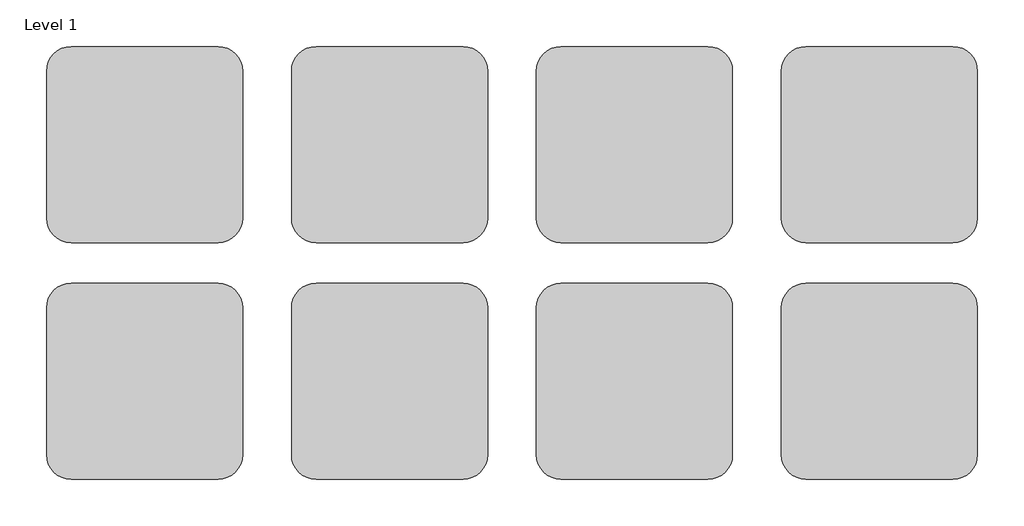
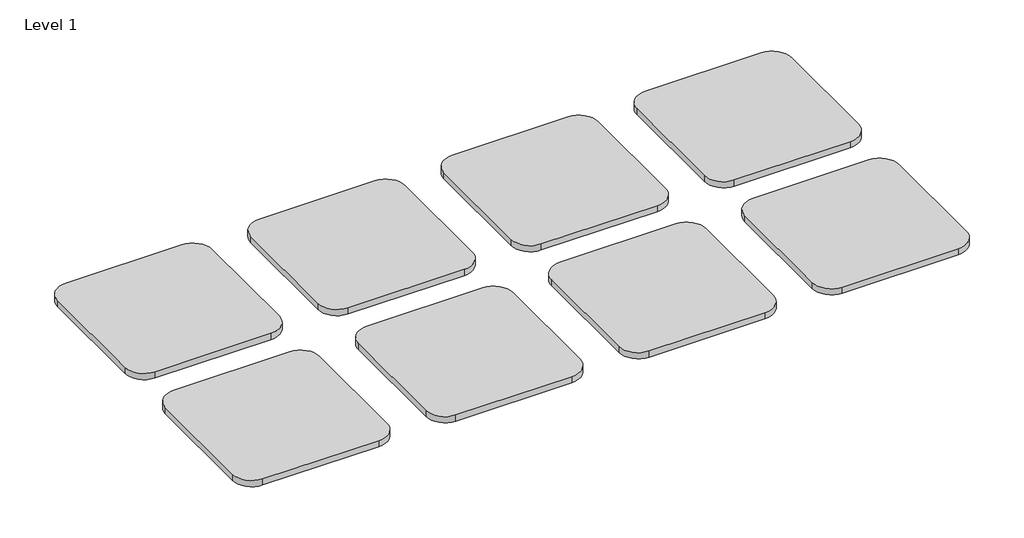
# One storey: 8 proxies.
"""IFC4 building model written with IfcOpenShell, lengths in millimetres."""

from ifc_helpers import new_model, si_unit, origin, place, context, project, spatial, transform, mapped, element, save
from components import materialsample_type_1_9638d12c

model = new_model("IFC4")

# Units and contexts
model_context = context("Model", 3, world=origin())
ifc_project = project(units=[si_unit("LENGTHUNIT", "METRE", prefix="MILLI")], contexts=[model_context])

# Site, building, storey
site = spatial("IfcSite", under=ifc_project)
building = spatial("IfcBuilding", under=site)
storey = spatial("IfcBuildingStorey", under=building, Name="Level 1", Elevation=0.0)

# Proxies
placement = place(None, origin())
materialsample_type_1_shape = materialsample_type_1_9638d12c(model_context)
element("IfcBuildingElementProxy", 1, Name="MaterialSample : Type 1", ObjectType="MaterialSample : Type 1", at=placement, inside=storey, context=model_context, shape_type="MappedRepresentation", body=[
    mapped(materialsample_type_1_shape, transform((1119.9336985, 1861.2552324, 0.0), x_axis=(1.0, 0.0, 0.0), y_axis=(0.0, 1.0, 0.0), z_axis=(0.0, 0.0, 1.0))),
])
element("IfcBuildingElementProxy", 2, Name="MaterialSample : Type 1", ObjectType="MaterialSample : Type 1", at=placement, inside=storey, context=model_context, shape_type="MappedRepresentation", body=[
    mapped(materialsample_type_1_shape, transform((357.9336985, 1861.2552324, 0.0), x_axis=(1.0, 0.0, 0.0), y_axis=(0.0, 1.0, 0.0), z_axis=(0.0, 0.0, 1.0))),
])
element("IfcBuildingElementProxy", 3, Name="MaterialSample : Type 1", ObjectType="MaterialSample : Type 1", at=placement, inside=storey, context=model_context, shape_type="MappedRepresentation", body=[
    mapped(materialsample_type_1_shape, transform((1881.9336985, 1861.2552324, 0.0), x_axis=(1.0, 0.0, 0.0), y_axis=(0.0, 1.0, 0.0), z_axis=(0.0, 0.0, 1.0))),
])
element("IfcBuildingElementProxy", 4, Name="MaterialSample : Type 1", ObjectType="MaterialSample : Type 1", at=placement, inside=storey, context=model_context, shape_type="MappedRepresentation", body=[
    mapped(materialsample_type_1_shape, transform((2643.9336985, 1861.2552324, 0.0), x_axis=(1.0, 0.0, 0.0), y_axis=(0.0, 1.0, 0.0), z_axis=(0.0, 0.0, 1.0))),
])
element("IfcBuildingElementProxy", 5, Name="MaterialSample : Type 1", ObjectType="MaterialSample : Type 1", at=placement, inside=storey, context=model_context, shape_type="MappedRepresentation", body=[
    mapped(materialsample_type_1_shape, transform((357.9336985, 1124.8680796, 0.0), x_axis=(1.0, 0.0, 0.0), y_axis=(0.0, 1.0, 0.0), z_axis=(0.0, 0.0, 1.0))),
])
element("IfcBuildingElementProxy", 6, Name="MaterialSample : Type 1", ObjectType="MaterialSample : Type 1", at=placement, inside=storey, context=model_context, shape_type="MappedRepresentation", body=[
    mapped(materialsample_type_1_shape, transform((1119.9336985, 1124.8680796, 0.0), x_axis=(1.0, 0.0, 0.0), y_axis=(0.0, 1.0, 0.0), z_axis=(0.0, 0.0, 1.0))),
])
element("IfcBuildingElementProxy", 7, Name="MaterialSample : Type 1", ObjectType="MaterialSample : Type 1", at=placement, inside=storey, context=model_context, shape_type="MappedRepresentation", body=[
    mapped(materialsample_type_1_shape, transform((1881.9336985, 1124.8680796, 0.0), x_axis=(1.0, 0.0, 0.0), y_axis=(0.0, 1.0, 0.0), z_axis=(0.0, 0.0, 1.0))),
])
element("IfcBuildingElementProxy", 8, Name="MaterialSample : Type 1", ObjectType="MaterialSample : Type 1", at=placement, inside=storey, context=model_context, shape_type="MappedRepresentation", body=[
    mapped(materialsample_type_1_shape, transform((2643.9336985, 1124.8680796, 0.0), x_axis=(1.0, 0.0, 0.0), y_axis=(0.0, 1.0, 0.0), z_axis=(0.0, 0.0, 1.0))),
])

save(model, "model.ifc")
